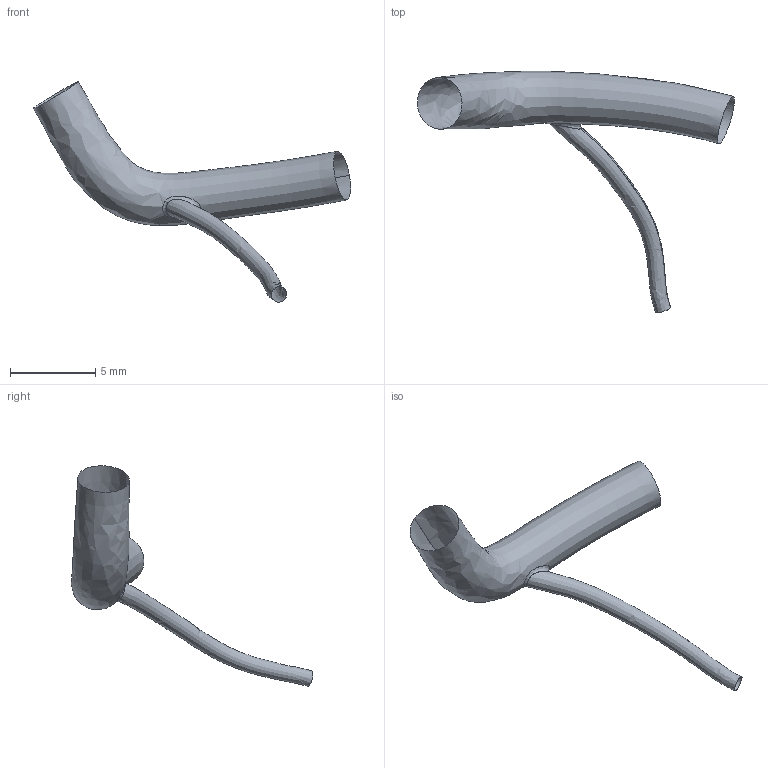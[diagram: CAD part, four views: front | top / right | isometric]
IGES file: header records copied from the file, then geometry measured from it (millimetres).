
Global section: file name: C:\Documents and Settings\Administrator\Desktop\FDA-Pig\Domestic RCA\Pig_000138\rv1.es.igs; native system: Rhinoceros ( May 19 2006 ); preprocessor: Trout Lake IGES 012 May 19 2006; date: 111205.190004; units: centimetre
Bounding box: 18.57 x 14.16 x 12.91 mm (x, y, z)
Surface area: 235.7 mm2 (no closed solid volume)
Topology: 0 solids, 0 shells, 3 faces, 32 edges, 29 vertices
Faces by surface type: bspline 3
